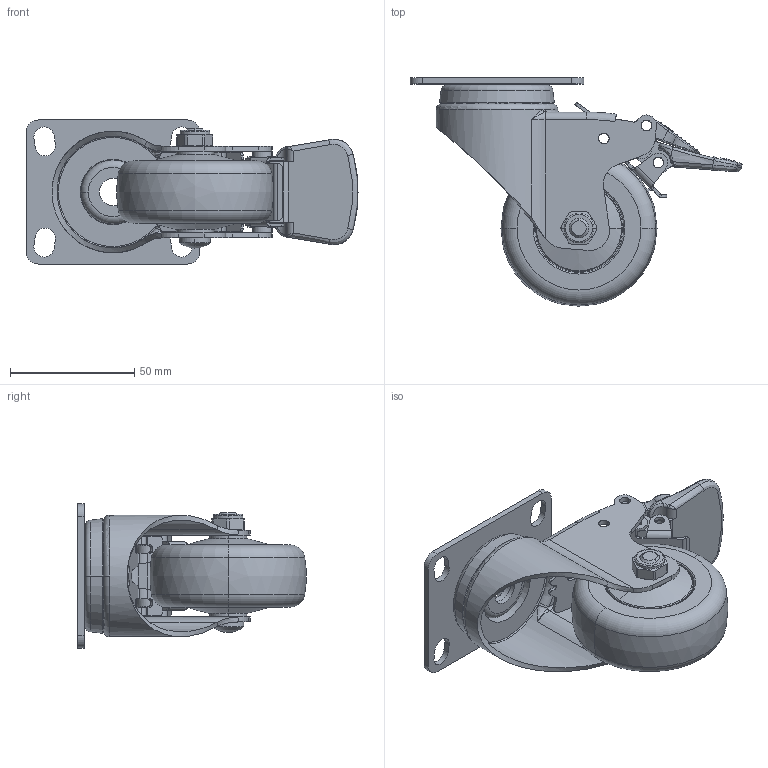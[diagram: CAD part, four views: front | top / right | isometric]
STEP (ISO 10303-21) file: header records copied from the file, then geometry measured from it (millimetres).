
FILE_DESCRIPTION((''),'2;1');
FILE_NAME('371225H_ASM','2026-07-09T',('Lenovo'),(''),'PRO/ENGINEER BY PARAMETRIC TECHNOLOGY CORPORATION, 2010280','PRO/ENGINEER BY PARAMETRIC TECHNOLOGY CORPORATION, 2010280','');
FILE_SCHEMA(('CONFIG_CONTROL_DESIGN'));
Length unit declared in the file: millimetre
Products named in the file (11): 37125-321; 360-01; 360-03; 370-64; 371-64; 37125-401; 3725-977; 3725-69; 350-33A; 300-34; 371225H_ASM
Assembly tree (11 placements, depth 2):
  371225H_ASM
    37125-321
    360-01
    360-03
    370-64
    371-64
    37125-401
    3725-977
    3725-69  x2
    350-33A
    300-34
Bounding box: 133.69 x 91.93 x 58 mm (x, y, z)
Volume: 118036.6 mm3; surface area: 63835.2 mm2
Topology: 11 solids, 11 shells, 858 faces, 2113 edges, 1294 vertices
Faces by surface type: plane 352, cylinder 256, bspline 146, torus 66, cone 36, sphere 2
Entity records: 32689 total; most frequent: CARTESIAN_POINT 13379, ORIENTED_EDGE 4110, DIRECTION 3766, EDGE_CURVE 2055, AXIS2_PLACEMENT_3D 1334, VERTEX_POINT 1262, VECTOR 1098, LINE 1098
